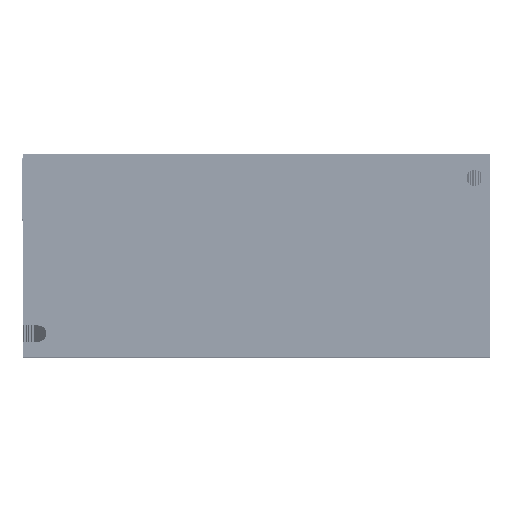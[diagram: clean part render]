
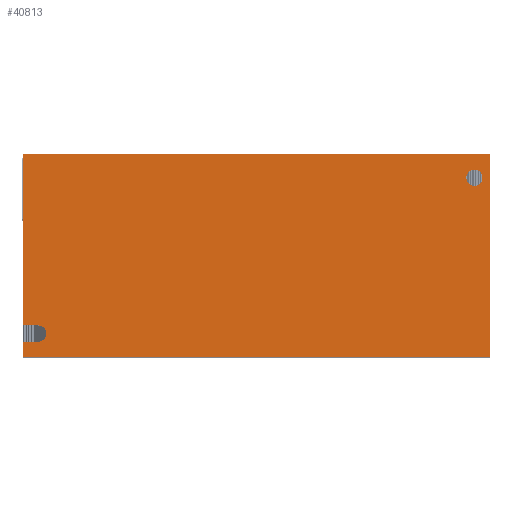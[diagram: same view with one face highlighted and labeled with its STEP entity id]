
A CAD part, top view. The second image highlights one B-rep face of the part: STEP entity #40813.
In plain terms, the highlighted planar face has unit normal (0, 0, 1).
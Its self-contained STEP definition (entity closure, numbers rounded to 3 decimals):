
#8245=DIRECTION('',(-1.,0.,0.));
#8246=VECTOR('',#8245,150.);
#8247=CARTESIAN_POINT('',(44.414,33.069,258.));
#8248=LINE('',#8247,#8246);
#10341=DIRECTION('',(0.,-1.,0.));
#10342=VECTOR('',#10341,65.);
#10343=CARTESIAN_POINT('',(44.414,33.069,258.));
#10344=LINE('',#10343,#10342);
#10345=CARTESIAN_POINT('',(-100.586,-24.431,258.));
#10346=DIRECTION('',(0.,0.,1.));
#10347=DIRECTION('',(0.,-1.,0.));
#10348=AXIS2_PLACEMENT_3D('',#10345,#10346,#10347);
#10350=CARTESIAN_POINT('',(-100.586,-24.431,258.));
#10351=DIRECTION('',(0.,0.,1.));
#10352=DIRECTION('',(1.,0.,0.));
#10353=AXIS2_PLACEMENT_3D('',#10350,#10351,#10352);
#10355=DIRECTION('',(-1.,0.,0.));
#10356=VECTOR('',#10355,5.);
#10357=CARTESIAN_POINT('',(-100.586,-21.831,258.));
#10358=LINE('',#10357,#10356);
#10359=DIRECTION('',(0.,1.,0.));
#10360=VECTOR('',#10359,54.9);
#10361=CARTESIAN_POINT('',(-105.586,-21.831,258.));
#10362=LINE('',#10361,#10360);
#10363=CARTESIAN_POINT('',(39.414,25.569,258.));
#10364=DIRECTION('',(0.,0.,1.));
#10365=DIRECTION('',(1.,0.,0.));
#10366=AXIS2_PLACEMENT_3D('',#10363,#10364,#10365);
#10368=CARTESIAN_POINT('',(39.414,25.569,258.));
#10369=DIRECTION('',(0.,0.,1.));
#10370=DIRECTION('',(-1.,0.,0.));
#10371=AXIS2_PLACEMENT_3D('',#10368,#10369,#10370);
#10373=DIRECTION('',(1.,0.,0.));
#10374=VECTOR('',#10373,150.);
#10375=CARTESIAN_POINT('',(-105.586,-31.931,258.));
#10376=LINE('',#10375,#10374);
#10433=DIRECTION('',(-1.,0.,0.));
#10434=VECTOR('',#10433,5.);
#10435=CARTESIAN_POINT('',(-100.586,-27.031,258.));
#10436=LINE('',#10435,#10434);
#10437=DIRECTION('',(0.,1.,0.));
#10438=VECTOR('',#10437,4.9);
#10439=CARTESIAN_POINT('',(-105.586,-31.931,258.));
#10440=LINE('',#10439,#10438);
#19535=CARTESIAN_POINT('',(-105.586,-21.831,258.));
#19536=CARTESIAN_POINT('',(-105.586,33.069,258.));
#19537=VERTEX_POINT('',#19535);
#19538=VERTEX_POINT('',#19536);
#20084=CARTESIAN_POINT('',(44.414,33.069,258.));
#20085=VERTEX_POINT('',#20084);
#20086=CARTESIAN_POINT('',(44.414,-31.931,258.));
#20087=VERTEX_POINT('',#20086);
#20675=CARTESIAN_POINT('',(-97.986,-24.431,258.));
#20676=VERTEX_POINT('',#20675);
#20677=CARTESIAN_POINT('',(-100.586,-27.031,258.));
#20678=VERTEX_POINT('',#20677);
#20679=CARTESIAN_POINT('',(-100.586,-21.831,258.));
#20680=VERTEX_POINT('',#20679);
#20681=CARTESIAN_POINT('',(-105.586,-27.031,258.));
#20682=VERTEX_POINT('',#20681);
#20683=CARTESIAN_POINT('',(-105.586,-31.931,258.));
#20684=VERTEX_POINT('',#20683);
#20685=CARTESIAN_POINT('',(42.014,25.569,258.));
#20686=CARTESIAN_POINT('',(36.814,25.569,258.));
#20687=VERTEX_POINT('',#20685);
#20688=VERTEX_POINT('',#20686);
#40785=CARTESIAN_POINT('',(-30.586,0.569,258.));
#40786=DIRECTION('',(0.,0.,1.));
#40787=DIRECTION('',(-1.,0.,0.));
#40788=AXIS2_PLACEMENT_3D('',#40785,#40786,#40787);
#40789=PLANE('',#40788);
#40790=ORIENTED_EDGE('',*,*,#38261,.F.);
#40791=ORIENTED_EDGE('',*,*,#30380,.T.);
#40793=ORIENTED_EDGE('',*,*,#40792,.F.);
#40795=ORIENTED_EDGE('',*,*,#40794,.T.);
#40797=ORIENTED_EDGE('',*,*,#40796,.F.);
#40799=ORIENTED_EDGE('',*,*,#40798,.T.);
#40801=ORIENTED_EDGE('',*,*,#40800,.T.);
#40803=ORIENTED_EDGE('',*,*,#40802,.T.);
#40804=ORIENTED_EDGE('',*,*,#26471,.T.);
#40805=EDGE_LOOP('',(#40790,#40791,#40793,#40795,#40797,#40799,#40801,#40803,
#40804));
#40806=FACE_OUTER_BOUND('',#40805,.F.);
#40808=ORIENTED_EDGE('',*,*,#40807,.T.);
#40810=ORIENTED_EDGE('',*,*,#40809,.T.);
#40811=EDGE_LOOP('',(#40808,#40810));
#40812=FACE_BOUND('',#40811,.F.);
#40813=ADVANCED_FACE('',(#40806,#40812),#40789,.T.);
#10349=CIRCLE('',#10348,2.6);
#10354=CIRCLE('',#10353,2.6);
#10367=CIRCLE('',#10366,2.6);
#10372=CIRCLE('',#10371,2.6);
#26471=EDGE_CURVE('',#19537,#19538,#10362,.T.);
#30380=EDGE_CURVE('',#20085,#20087,#10344,.T.);
#38261=EDGE_CURVE('',#20085,#19538,#8248,.T.);
#40792=EDGE_CURVE('',#20684,#20087,#10376,.T.);
#40794=EDGE_CURVE('',#20684,#20682,#10440,.T.);
#40796=EDGE_CURVE('',#20678,#20682,#10436,.T.);
#40798=EDGE_CURVE('',#20678,#20676,#10349,.T.);
#40800=EDGE_CURVE('',#20676,#20680,#10354,.T.);
#40802=EDGE_CURVE('',#20680,#19537,#10358,.T.);
#40807=EDGE_CURVE('',#20687,#20688,#10367,.T.);
#40809=EDGE_CURVE('',#20688,#20687,#10372,.T.);
